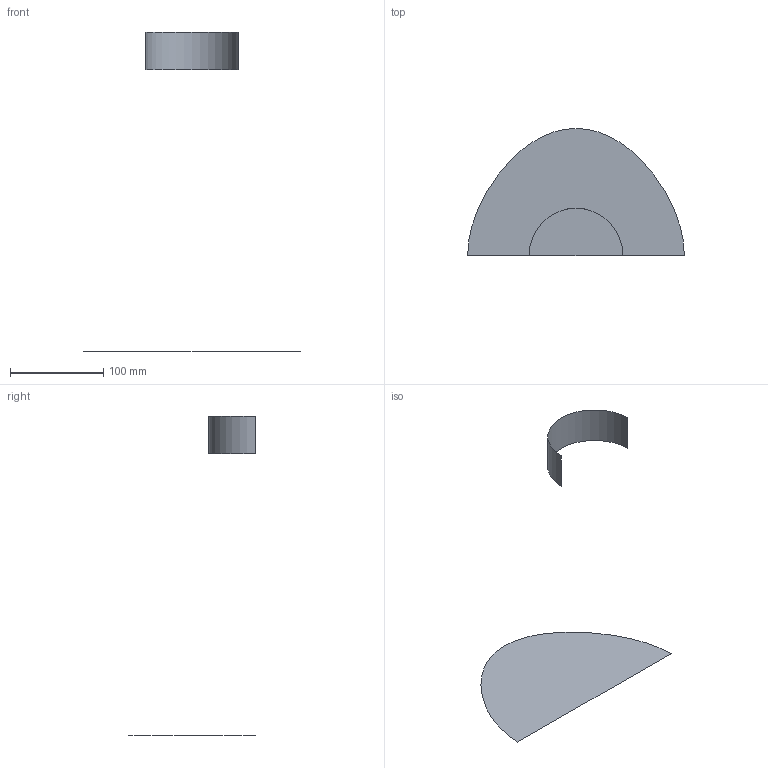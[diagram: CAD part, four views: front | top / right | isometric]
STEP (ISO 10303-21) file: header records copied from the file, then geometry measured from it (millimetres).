
FILE_DESCRIPTION(('CATIA V5 STEP Exchange'),'2;1');
FILE_NAME('C:\_Andres\UNIVERSIDAD\IQS\ASIGNATURAS\DAO\Controles\1617\c1\1original\Rabat_Riba_Ej00-base_v26.stp','2017-02-06T16:27:50+00:00',('none'),('none'),'CATIA Version 5-6 Release 2014 SP1 HF18','CATIA V5 STEP AP203','none');
FILE_SCHEMA(('CONFIG_CONTROL_DESIGN'));
Length unit declared in the file: millimetre
Products named in the file (1): Rabat_Riba_Ej00-base_v26
Bounding box: 232 x 136 x 342 mm (x, y, z)
Surface area: 30034.4 mm2 (no closed solid volume)
Topology: 0 solids, 2 shells, 2 faces, 16 edges, 26 vertices
Faces by surface type: cylinder 1, plane 1
Entity records: 230 total; most frequent: CARTESIAN_POINT 78, DIRECTION 16, COMPOSITE_CURVE_SEGMENT 9, TRIMMED_CURVE 9, AXIS2_PLACEMENT_3D 8, COMPOSITE_CURVE 7, ORIENTED_EDGE 7, EDGE_CURVE 7
